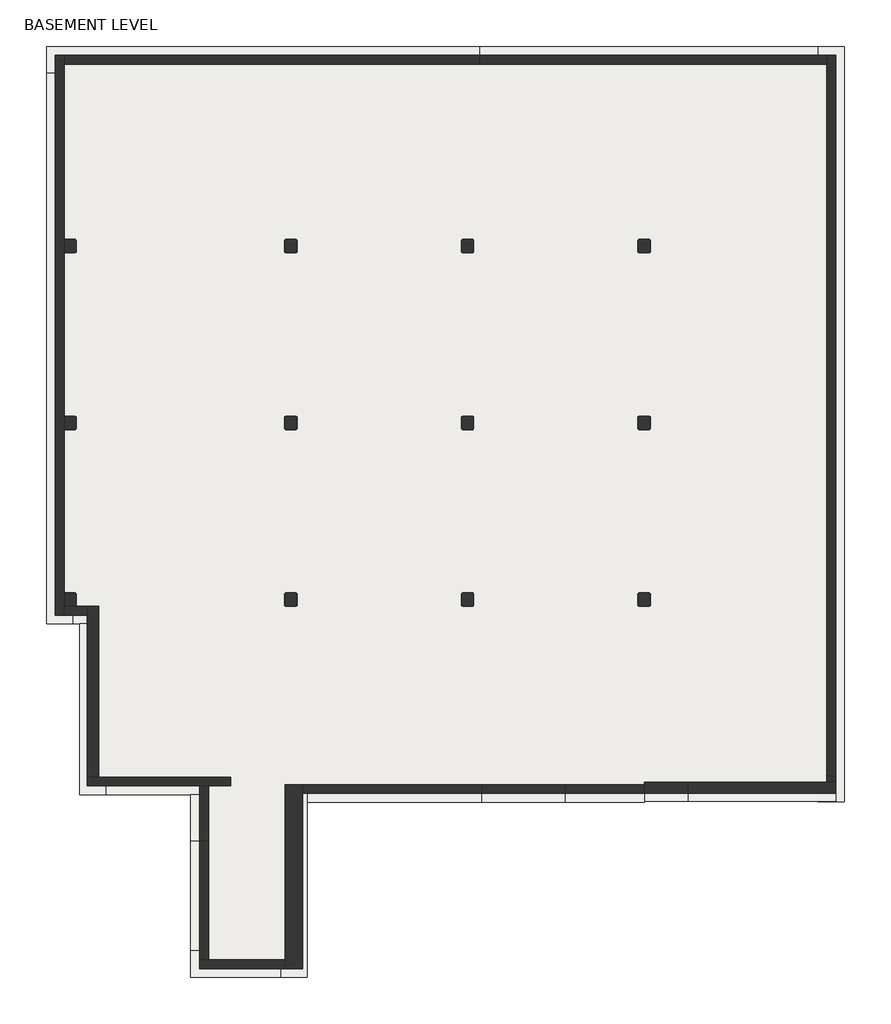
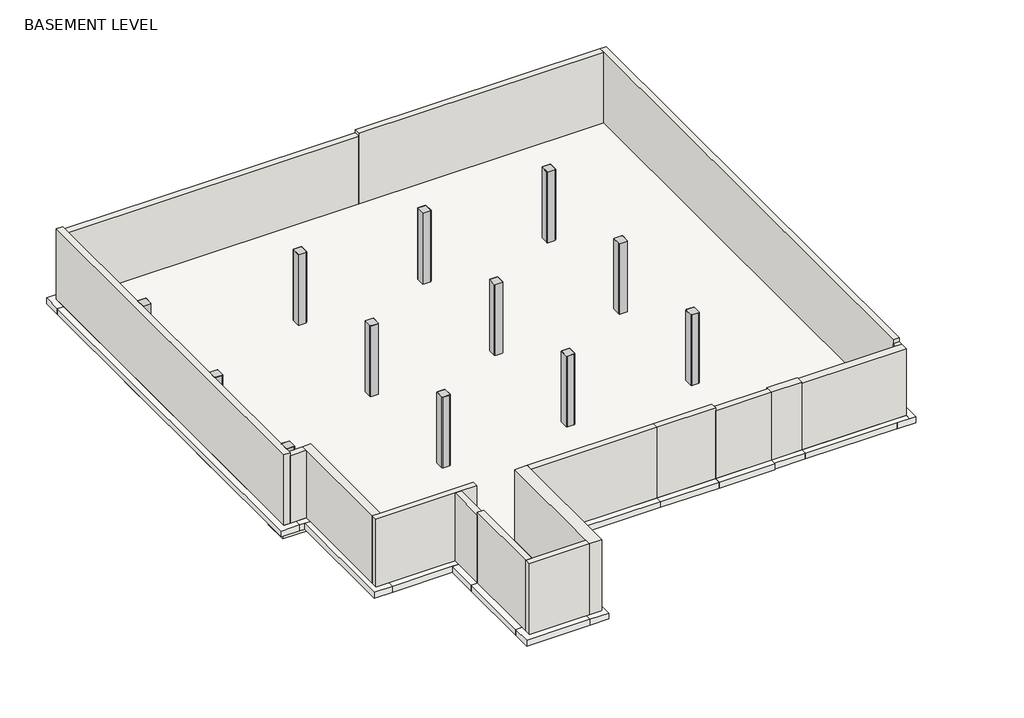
# One storey: 17 walls, 16 footings, 13 slabs, 12 columns.
"""IFC4 building model written with IfcOpenShell, lengths in millimetres."""

from ifc_helpers import new_model, si_unit, frame, origin, place, context, project, spatial, polyline, outline, extrude, faceted_brep, transform, mapped, element, save
from components import precast_rectangular_column_18x16_4c32c86e

model = new_model("IFC4")

# Units and contexts
model_context = context("Model", 3, world=origin())
ifc_project = project(units=[si_unit("LENGTHUNIT", "METRE", prefix="MILLI")], contexts=[model_context])

# Site, building, storey
site = spatial("IfcSite", under=ifc_project)
building = spatial("IfcBuilding", under=site)
storey = spatial("IfcBuildingStorey", under=building, Name="BASEMENT LEVEL", Elevation=-3663.95)

# Columns
placement = place(None, origin())
precast_rectangular_column_18x16_shape = precast_rectangular_column_18x16_4c32c86e(model_context)
element("IfcColumn", 1, ObjectType="Precast-Rectangular Column : 18X16", at=placement, inside=storey, context=model_context, shape_type="MappedRepresentation", body=[
    mapped(precast_rectangular_column_18x16_shape, transform((8608.9507265, 8108.7461318, 0.0), x_axis=(0.0, 1.0, 0.0), y_axis=(-1.0, 0.0, 0.0), z_axis=(0.0, 0.0, 1.0))),
])
element("IfcColumn", 2, ObjectType="Precast-Rectangular Column : 18X16", at=placement, inside=storey, context=model_context, shape_type="MappedRepresentation", body=[
    mapped(precast_rectangular_column_18x16_shape, transform((8608.9507265, 2012.7461318, 0.0), x_axis=(0.0, 1.0, 0.0), y_axis=(-1.0, 0.0, 0.0), z_axis=(0.0, 0.0, 1.0))),
])
element("IfcColumn", 3, ObjectType="Precast-Rectangular Column : 18X16", at=placement, inside=storey, context=model_context, shape_type="MappedRepresentation", body=[
    mapped(precast_rectangular_column_18x16_shape, transform((22324.9507265, 2012.7461318, 0.0), x_axis=(0.0, 1.0, 0.0), y_axis=(-1.0, 0.0, 0.0), z_axis=(0.0, 0.0, 1.0))),
])
element("IfcColumn", 4, ObjectType="Precast-Rectangular Column : 18X16", at=placement, inside=storey, context=model_context, shape_type="MappedRepresentation", body=[
    mapped(precast_rectangular_column_18x16_shape, transform((28420.9507265, 2012.7461318, 0.0), x_axis=(0.0, 1.0, 0.0), y_axis=(-1.0, 0.0, 0.0), z_axis=(0.0, 0.0, 1.0))),
])
element("IfcColumn", 5, ObjectType="Precast-Rectangular Column : 18X16", at=placement, inside=storey, context=model_context, shape_type="MappedRepresentation", body=[
    mapped(precast_rectangular_column_18x16_shape, transform((28420.9507265, -4083.2538682, 0.0), x_axis=(0.0, 1.0, 0.0), y_axis=(-1.0, 0.0, 0.0), z_axis=(0.0, 0.0, 1.0))),
])
element("IfcColumn", 6, ObjectType="Precast-Rectangular Column : 18X16", at=placement, inside=storey, context=model_context, shape_type="MappedRepresentation", body=[
    mapped(precast_rectangular_column_18x16_shape, transform((22324.9507265, -4083.2538682, 0.0), x_axis=(0.0, 1.0, 0.0), y_axis=(-1.0, 0.0, 0.0), z_axis=(0.0, 0.0, 1.0))),
])
element("IfcColumn", 7, ObjectType="Precast-Rectangular Column : 18X16", at=placement, inside=storey, context=model_context, shape_type="MappedRepresentation", body=[
    mapped(precast_rectangular_column_18x16_shape, transform((16228.9507265, -4083.2538682, 0.0), x_axis=(0.0, 1.0, 0.0), y_axis=(-1.0, 0.0, 0.0), z_axis=(0.0, 0.0, 1.0))),
])
element("IfcColumn", 8, ObjectType="Precast-Rectangular Column : 18X16", at=placement, inside=storey, context=model_context, shape_type="MappedRepresentation", body=[
    mapped(precast_rectangular_column_18x16_shape, transform((8608.9507265, -4084.8413682, 0.0), x_axis=(0.0, 1.0, 0.0), y_axis=(-1.0, 0.0, 0.0), z_axis=(0.0, 0.0, 1.0))),
])
element("IfcColumn", 9, ObjectType="Precast-Rectangular Column : 18X16", at=placement, inside=storey, context=model_context, shape_type="MappedRepresentation", body=[
    mapped(precast_rectangular_column_18x16_shape, transform((28420.9507265, 8108.7461318, 0.0), x_axis=(0.0, 1.0000000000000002, 0.0), y_axis=(-1.0000000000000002, 0.0, 0.0), z_axis=(0.0, 0.0, 1.0))),
])
element("IfcColumn", 10, ObjectType="Precast-Rectangular Column : 18X16", at=placement, inside=storey, context=model_context, shape_type="MappedRepresentation", body=[
    mapped(precast_rectangular_column_18x16_shape, transform((22324.9507265, 8108.7461318, 0.0), x_axis=(0.0, 1.0000000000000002, 0.0), y_axis=(-1.0000000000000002, 0.0, 0.0), z_axis=(0.0, 0.0, 1.0))),
])
element("IfcColumn", 11, ObjectType="Precast-Rectangular Column : 18X16", at=placement, inside=storey, context=model_context, shape_type="MappedRepresentation", body=[
    mapped(precast_rectangular_column_18x16_shape, transform((16228.9507265, 8108.7461318, 0.0), x_axis=(0.0, 1.0000000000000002, 0.0), y_axis=(-1.0000000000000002, 0.0, 0.0), z_axis=(0.0, 0.0, 1.0))),
])
element("IfcColumn", 12, ObjectType="Precast-Rectangular Column : 18X16", at=placement, inside=storey, context=model_context, shape_type="MappedRepresentation", body=[
    mapped(precast_rectangular_column_18x16_shape, transform((16228.9507265, 2012.7461318, 0.0), x_axis=(0.0, 1.0000000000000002, 0.0), y_axis=(-1.0000000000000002, 0.0, 0.0), z_axis=(0.0, 0.0, 1.0))),
])

# Footings
element("IfcFooting", 13, ObjectType="Bearing Footing - 36\" x 12\"", at=placement, inside=storey, context=model_context, shape_type="Brep", body=[
    faceted_brep([(15873.1470917, -17115.0413682, -3663.95), (16787.5470917, -17115.0413682, -3663.95), (16787.5470917, -11073.0163682, -3663.95), (16787.5470917, -10768.2163682, -3663.95), (16635.1470917, -10768.2163682, -3663.95), (16635.1470917, -16810.2413682, -3663.95), (15873.1470917, -16810.2413682, -3663.95), (16787.5470917, -17115.0413682, -3968.75), (16787.5470917, -11073.0163682, -3968.75), (16787.5470917, -10158.6163682, -3968.75), (16787.5470917, -10158.6163682, -3816.35), (16787.5470917, -10768.2163682, -3816.35), (15873.1470917, -17115.0413682, -3968.75), (15873.1470917, -16200.6413682, -3968.75), (15873.1470917, -10158.6163682, -3968.75), (15873.1470917, -16810.2413682, -3816.35), (15873.1470917, -16200.6413682, -3816.35), (15873.1470917, -10158.6163682, -3816.35), (16635.1470917, -16810.2413682, -3816.35), (16635.1470917, -10768.2163682, -3816.35)], [[[0, 1, 2, 3, 4, 5, 6]], [[7, 8, 9, 10, 11, 3, 2, 1]], [[9, 8, 7, 12, 13, 14]], [[14, 13, 12, 0, 6, 15, 16, 17]], [[18, 19, 11, 10, 17, 16, 15]], [[19, 4, 3, 11]], [[19, 18, 5, 4]], [[5, 18, 15, 6]], [[1, 0, 12, 7]], [[9, 14, 17, 10]]]),
])
element("IfcFooting", 14, ObjectType="Bearing Footing - 36\" x 12\"", at=placement, inside=storey, context=model_context, shape_type="Brep", body=[
    faceted_brep([(13079.1470917, -16810.2413682, -3663.95), (13079.1470917, -16200.6413682, -3663.95), (12774.3470917, -16200.6413682, -3663.95), (12774.3470917, -17115.0413682, -3663.95), (15873.1470917, -17115.0413682, -3663.95), (15873.1470917, -16810.2413682, -3663.95), (12774.3470917, -17115.0413682, -3968.75), (15873.1470917, -17115.0413682, -3968.75), (12774.3470917, -16200.6413682, -3968.75), (13688.7470917, -16200.6413682, -3968.75), (15873.1470917, -16200.6413682, -3968.75), (13079.1470917, -16200.6413682, -3816.35), (13688.7470917, -16200.6413682, -3816.35), (15873.1470917, -16200.6413682, -3816.35), (13079.1470917, -16810.2413682, -3816.35), (15873.1470917, -16810.2413682, -3816.35)], [[[0, 1, 2, 3, 4, 5]], [[3, 6, 7, 4]], [[6, 8, 9, 10, 7]], [[1, 11, 12, 13, 10, 9, 8, 2]], [[11, 14, 15, 13, 12]], [[14, 0, 5, 15]], [[0, 14, 11, 1]], [[5, 4, 7, 10, 13, 15]], [[3, 2, 8, 6]]]),
])
element("IfcFooting", 15, ObjectType="Bearing Footing - 36\" x 12\"", at=placement, inside=storey, context=model_context, shape_type="SweptSolid", body=[
    extrude(outline(polyline([(-11073.0163682, -3663.95), (-10768.2163682, -3663.95), (-10768.2163682, -3816.35), (-10158.6163682, -3816.35), (-10158.6163682, -3968.75), (-11073.0163682, -3968.75), (-11073.0163682, -3663.95)])), frame((16787.5470917, 0.0, 0.0), z_axis=(1.0, 0.0, 0.0), x_axis=(0.0, 1.0, 0.0)), (0.0, 0.0, 1.0), 6021.5911348),
])
element("IfcFooting", 16, ObjectType="Bearing Footing - 36\" x 12\"", at=placement, inside=storey, context=model_context, shape_type="SweptSolid", body=[
    extrude(outline(polyline([(-11073.0163682, -3968.75), (-11073.0163682, -3663.95), (-10768.2163682, -3663.95), (-10768.2163682, -3816.35), (-10158.6163682, -3816.35), (-10158.6163682, -3968.75), (-11073.0163682, -3968.75)])), frame((22809.1382265, 0.0, 0.0), z_axis=(1.0, 0.0, 0.0), x_axis=(0.0, 1.0, 0.0)), (0.0, 0.0, 1.0), 2876.2836945),
])
element("IfcFooting", 17, ObjectType="Bearing Footing - 36\" x 12\"", at=placement, inside=storey, context=model_context, shape_type="Brep", body=[
    faceted_brep([(28420.9507265, -11073.0163682, -3663.95), (28420.9507265, -11073.0163682, -3968.75), (28420.9507265, -11031.7413682, -3968.75), (28420.9507265, -10158.6163682, -3968.75), (28420.9507265, -10158.6163682, -3816.35), (28420.9507265, -10768.2163682, -3816.35), (28420.9507265, -10768.2163682, -3663.95), (28420.9507265, -11031.7413682, -3663.95), (25685.421921, -11073.0163682, -3968.75), (25685.421921, -11073.0163682, -3663.95), (25685.421921, -10768.2163682, -3663.95), (25685.421921, -10768.2163682, -3816.35), (25685.421921, -10158.6163682, -3816.35), (25685.421921, -10158.6163682, -3968.75)], [[[0, 1, 2, 3, 4, 5, 6, 7]], [[8, 9, 10, 11, 12, 13]], [[9, 0, 7, 6, 10]], [[1, 0, 9, 8]], [[3, 2, 1, 8, 13]], [[3, 13, 12, 4]], [[11, 5, 4, 12]], [[5, 11, 10, 6]]]),
])
element("IfcFooting", 18, ObjectType="Bearing Footing - 36\" x 12\"", at=placement, inside=storey, context=model_context, shape_type="Brep", body=[
    faceted_brep([(29919.3470917, -11031.7413682, -3663.95), (29919.3470917, -11031.7413682, -3968.75), (29919.3470917, -10117.3413682, -3968.75), (29919.3470917, -10117.3413682, -3816.35), (29919.3470917, -10768.2163682, -3816.35), (29919.3470917, -10768.2163682, -3663.95), (28420.9507265, -11031.7413682, -3968.75), (28420.9507265, -11031.7413682, -3663.95), (28420.9507265, -10768.2163682, -3663.95), (28420.9507265, -10768.2163682, -3816.35), (28420.9507265, -10158.6163682, -3816.35), (28420.9507265, -10117.3413682, -3816.35), (28420.9507265, -10117.3413682, -3968.75), (28420.9507265, -10158.6163682, -3968.75)], [[[0, 1, 2, 3, 4, 5]], [[6, 7, 8, 9, 10, 11, 12, 13]], [[7, 0, 5, 8]], [[1, 0, 7, 6]], [[2, 1, 6, 13, 12]], [[2, 12, 11, 3]], [[9, 4, 3, 11, 10]], [[4, 9, 8, 5]]]),
])
element("IfcFooting", 19, ObjectType="Bearing Footing - 36\" x 12\"", at=placement, inside=storey, context=model_context, shape_type="Brep", body=[
    faceted_brep([(35024.7470917, -11031.7413682, -3663.95), (35024.7470917, -11031.7413682, -3968.75), (35024.7470917, -10117.3413682, -3968.75), (35024.7470917, -10117.3413682, -3816.35), (35024.7470917, -10768.2163682, -3816.35), (35024.7470917, -10768.2163682, -3663.95), (29919.3470917, -11031.7413682, -3968.75), (29919.3470917, -11031.7413682, -3663.95), (29919.3470917, -10768.2163682, -3663.95), (29919.3470917, -10768.2163682, -3816.35), (29919.3470917, -10117.3413682, -3816.35), (29919.3470917, -10117.3413682, -3968.75), (34415.1470917, -11031.7413682, -3663.95), (34415.1470917, -11031.7413682, -3968.75), (34415.1470917, -10117.3413682, -3968.75), (34415.1470917, -10117.3413682, -3816.35)], [[[0, 1, 2, 3, 4, 5]], [[6, 7, 8, 9, 10, 11]], [[7, 12, 0, 5, 8]], [[1, 0, 12, 7, 6, 13]], [[2, 1, 13, 6, 11, 14]], [[2, 14, 11, 10, 15, 3]], [[9, 4, 3, 15, 10]], [[4, 9, 8, 5]]]),
])
element("IfcFooting", 20, ObjectType="Bearing Footing - 36\" x 12\"", at=placement, inside=storey, context=model_context, shape_type="Brep", body=[
    faceted_brep([(35329.5470917, -11057.1413682, -3968.75), (35329.5470917, -11057.1413682, -3663.95), (34415.1470917, -11057.1413682, -3663.95), (34415.1470917, -11057.1413682, -3968.75), (35329.5470917, 14990.5586318, -3663.95), (34415.1470917, 14990.5586318, -3663.95), (34415.1470917, 14685.7586318, -3663.95), (35024.7470917, 14685.7586318, -3663.95), (35024.7470917, -10768.2163682, -3663.95), (35024.7470917, -11031.7413682, -3663.95), (34415.1470917, -11031.7413682, -3663.95), (35329.5470917, 14990.5586318, -3968.75), (34415.1470917, -11031.7413682, -3968.75), (35024.7470917, -11031.7413682, -3968.75), (35024.7470917, -10117.3413682, -3968.75), (34415.1470917, -10117.3413682, -3968.75), (34415.1470917, 14076.1586318, -3968.75), (34415.1470917, 14990.5586318, -3968.75), (34415.1470917, 14685.7586318, -3816.35), (34415.1470917, -10117.3413682, -3816.35), (34415.1470917, 14076.1586318, -3816.35), (35024.7470917, 14685.7586318, -3816.35), (35024.7470917, -10117.3413682, -3816.35)], [[[0, 1, 2, 3]], [[1, 4, 5, 6, 7, 8, 9, 10, 2]], [[1, 0, 11, 4]], [[0, 3, 12, 13, 14, 15, 16, 17, 11]], [[3, 2, 10, 12]], [[18, 6, 5, 17, 16, 15, 19, 20]], [[21, 18, 20, 19, 22]], [[7, 21, 22, 14, 13, 9, 8]], [[21, 7, 6, 18]], [[14, 22, 19, 15]], [[9, 13, 12, 10]], [[5, 4, 11, 17]]]),
])
element("IfcFooting", 21, ObjectType="Bearing Footing - 36\" x 12\"", at=placement, inside=storey, context=model_context, shape_type="SweptSolid", body=[
    extrude(outline(polyline([(14990.5586318, -3663.95), (14990.5586318, -3968.75), (14076.1586318, -3968.75), (14076.1586318, -3816.35), (14685.7586318, -3816.35), (14685.7586318, -3663.95), (14990.5586318, -3663.95)])), frame((22731.1470917, 0.0, 0.0), z_axis=(1.0, 0.0, 0.0), x_axis=(0.0, 1.0, 0.0)), (0.0, 0.0, 1.0), 11684.0),
])
element("IfcFooting", 22, ObjectType="Bearing Footing - 36\" x 12\"", at=placement, inside=storey, context=model_context, shape_type="Brep", body=[
    faceted_brep([(22731.1470917, 14990.5586318, -3968.75), (22731.1470917, 14990.5586318, -3663.95), (22731.1470917, 14685.7586318, -3663.95), (22731.1470917, 14685.7586318, -3816.35), (22731.1470917, 14076.1586318, -3816.35), (22731.1470917, 14076.1586318, -3968.75), (7795.9470917, 14990.5586318, -3663.95), (7795.9470917, 14076.1586318, -3663.95), (8100.7470917, 14076.1586318, -3663.95), (8100.7470917, 14685.7586318, -3663.95), (7795.9470917, 14990.5586318, -3968.75), (8710.3470917, 14076.1586318, -3968.75), (7795.9470917, 14076.1586318, -3968.75), (8710.3470917, 14076.1586318, -3816.35), (8100.7470917, 14076.1586318, -3816.35), (8100.7470917, 14685.7586318, -3816.35)], [[[0, 1, 2, 3, 4, 5]], [[1, 6, 7, 8, 9, 2]], [[1, 0, 10, 6]], [[0, 5, 11, 12, 10]], [[12, 11, 5, 4, 13, 14, 8, 7]], [[3, 15, 14, 13, 4]], [[9, 15, 3, 2]], [[7, 6, 10, 12]], [[15, 9, 8, 14]]]),
])
element("IfcFooting", 23, ObjectType="Bearing Footing - 36\" x 12\"", at=placement, inside=storey, context=model_context, shape_type="Brep", body=[
    faceted_brep([(8710.3470917, -4923.0413682, -3663.95), (8710.3470917, -4618.2413682, -3663.95), (8100.7470917, -4618.2413682, -3663.95), (8100.7470917, 14076.1586318, -3663.95), (7795.9470917, 14076.1586318, -3663.95), (7795.9470917, -4923.0413682, -3663.95), (7795.9470917, -4923.0413682, -3968.75), (7795.9470917, 14076.1586318, -3968.75), (8710.3470917, 8718.3461318, -3968.75), (7999.3507265, 8718.3461318, -3968.75), (7999.3507265, 7499.1461318, -3968.75), (8710.3470917, 7499.1461318, -3968.75), (8710.3470917, 2622.3461318, -3968.75), (7999.3507265, 2622.3461318, -3968.75), (7999.3507265, 1403.1461318, -3968.75), (8710.3470917, 1403.1461318, -3968.75), (8710.3470917, -3473.6538682, -3968.75), (7999.3507265, -3473.6538682, -3968.75), (7999.3507265, -4692.8538682, -3968.75), (8710.3470917, -4692.8538682, -3968.75), (8710.3470917, -4923.0413682, -3968.75), (8710.3470917, 14076.1586318, -3968.75), (8710.3470917, 8718.3461318, -3816.35), (8710.3470917, 14076.1586318, -3816.35), (8710.3470917, 7499.1461318, -3816.35), (8710.3470917, 2622.3461318, -3816.35), (8710.3470917, 1403.1461318, -3816.35), (8710.3470917, -3473.6538682, -3816.35), (8710.3470917, -4692.8538682, -3816.35), (8710.3470917, -4618.2413682, -3816.35), (8100.7470917, 8718.3461318, -3816.35), (8100.7470917, 14076.1586318, -3816.35), (8100.7470917, 7499.1461318, -3816.35), (8100.7470917, 2622.3461318, -3816.35), (8100.7470917, 1403.1461318, -3816.35), (8100.7470917, -3473.6538682, -3816.35), (8100.7470917, -4618.2413682, -3816.35), (7999.3507265, 7499.1461318, -3816.35), (7999.3507265, 8718.3461318, -3816.35), (7999.3507265, 1403.1461318, -3816.35), (7999.3507265, 2622.3461318, -3816.35), (7999.3507265, -4692.8538682, -3816.35), (7999.3507265, -3473.6538682, -3816.35)], [[[0, 1, 2, 3, 4, 5]], [[6, 5, 4, 7]], [[8, 9, 10, 11, 12, 13, 14, 15, 16, 17, 18, 19, 20, 6, 7, 21]], [[22, 8, 21, 23]], [[11, 24, 25, 12]], [[15, 26, 27, 16]], [[1, 0, 20, 19, 28, 29]], [[30, 22, 23, 31]], [[24, 32, 33, 25]], [[26, 34, 35, 27]], [[36, 2, 1, 29]], [[2, 36, 35, 34, 33, 32, 30, 31, 3]], [[37, 38, 30, 32]], [[30, 38, 9, 8, 22]], [[38, 37, 10, 9]], [[37, 32, 24, 11, 10]], [[39, 40, 33, 34]], [[33, 40, 13, 12, 25]], [[40, 39, 14, 13]], [[39, 34, 26, 15, 14]], [[41, 42, 35, 36, 29, 28]], [[35, 42, 17, 16, 27]], [[42, 41, 18, 17]], [[4, 3, 31, 23, 21, 7]], [[0, 5, 6, 20]], [[41, 28, 19, 18]]]),
])
element("IfcFooting", 24, ObjectType="Bearing Footing - 36\" x 12\"", at=placement, inside=storey, context=model_context, shape_type="Brep", body=[
    faceted_brep([(9205.0138194, -4923.0413682, -3663.95), (9205.0138194, -4618.2413682, -3663.95), (8710.3470917, -4618.2413682, -3663.95), (8710.3470917, -4923.0413682, -3663.95), (8941.4888194, -4923.0413682, -3663.95), (9205.0138194, -4923.0413682, -3816.35), (8710.3470917, -4923.0413682, -3968.75), (8941.4888194, -4923.0413682, -3968.75), (9855.8888194, -4923.0413682, -3968.75), (9855.8888194, -4923.0413682, -3816.35), (9855.8888194, -4008.6413682, -3968.75), (8710.3470917, -4692.8538682, -3968.75), (9218.5507265, -4692.8538682, -3968.75), (9218.5507265, -4008.6413682, -3968.75), (9855.8888194, -4008.6413682, -3816.35), (9218.5507265, -4008.6413682, -3816.35), (9218.5507265, -4692.8538682, -3816.35), (9205.0138194, -4692.8538682, -3816.35), (9205.0138194, -4618.2413682, -3816.35), (8710.3470917, -4618.2413682, -3816.35), (8710.3470917, -4692.8538682, -3816.35)], [[[0, 1, 2, 3, 4]], [[5, 0, 4, 3, 6, 7, 8, 9]], [[10, 8, 7, 6, 11, 12, 13]], [[14, 10, 13, 15]], [[5, 9, 14, 15, 16, 17]], [[18, 1, 0, 5, 17]], [[1, 18, 19, 2]], [[18, 17, 20, 19]], [[16, 12, 11, 20, 17]], [[3, 2, 19, 20, 11, 6]], [[8, 10, 14, 9]], [[12, 16, 15, 13]]]),
])
element("IfcFooting", 25, ObjectType="Bearing Footing - 36\" x 12\"", at=placement, inside=storey, context=model_context, shape_type="Brep", body=[
    faceted_brep([(8941.4888194, -10815.8413682, -3663.95), (9855.8888194, -10815.8413682, -3663.95), (9855.8888194, -10511.0413682, -3663.95), (9205.0138194, -10511.0413682, -3663.95), (9205.0138194, -4923.0413682, -3663.95), (8941.4888194, -4923.0413682, -3663.95), (8941.4888194, -10815.8413682, -3968.75), (8941.4888194, -4923.0413682, -3968.75), (9855.8888194, -10815.8413682, -3968.75), (9855.8888194, -4923.0413682, -3968.75), (9855.8888194, -9901.4413682, -3968.75), (9855.8888194, -4923.0413682, -3816.35), (9855.8888194, -9901.4413682, -3816.35), (9855.8888194, -10511.0413682, -3816.35), (9205.0138194, -10511.0413682, -3816.35), (9205.0138194, -4923.0413682, -3816.35)], [[[0, 1, 2, 3, 4, 5]], [[6, 0, 5, 7]], [[8, 6, 7, 9, 10]], [[1, 8, 10, 9, 11, 12, 13, 2]], [[14, 13, 12, 11, 15]], [[3, 14, 15, 4]], [[5, 4, 15, 11, 9, 7]], [[1, 0, 6, 8]], [[14, 3, 2, 13]]]),
])
element("IfcFooting", 26, ObjectType="Bearing Footing - 36\" x 12\"", at=placement, inside=storey, context=model_context, shape_type="Brep", body=[
    faceted_brep([(14152.2970917, -10815.8413682, -3968.75), (14152.2970917, -9901.4413682, -3968.75), (14152.2970917, -9901.4413682, -3816.35), (14152.2970917, -10815.8413682, -3816.35), (13079.1470917, -10815.8413682, -3663.95), (13079.1470917, -10511.0413682, -3663.95), (9855.8888194, -10511.0413682, -3663.95), (9855.8888194, -10815.8413682, -3663.95), (12774.3470917, -10815.8413682, -3663.95), (13688.7470917, -10815.8413682, -3816.35), (13079.1470917, -10815.8413682, -3816.35), (9855.8888194, -10815.8413682, -3968.75), (12774.3470917, -10815.8413682, -3968.75), (13688.7470917, -10815.8413682, -3968.75), (9855.8888194, -9901.4413682, -3968.75), (9855.8888194, -9901.4413682, -3816.35), (13079.1470917, -10511.0413682, -3816.35), (9855.8888194, -10511.0413682, -3816.35)], [[[0, 1, 2, 3]], [[4, 5, 6, 7, 8]], [[0, 3, 9, 10, 4, 8, 7, 11, 12, 13]], [[1, 0, 13, 12, 11, 14]], [[2, 1, 14, 15]], [[16, 10, 9, 3, 2, 15, 17]], [[16, 5, 4, 10]], [[5, 16, 17, 6]], [[7, 6, 17, 15, 14, 11]]]),
])
element("IfcFooting", 27, ObjectType="Bearing Footing - 36\" x 12\"", at=placement, inside=storey, context=model_context, shape_type="SweptSolid", body=[
    extrude(outline(polyline([(-3663.95, 12774.3470917), (-3968.75, 12774.3470917), (-3968.75, 13688.7470917), (-3816.35, 13688.7470917), (-3816.35, 13079.1470917), (-3663.95, 13079.1470917), (-3663.95, 12774.3470917)])), frame((0.0, -12412.8663682, 0.0), z_axis=(0.0, 1.0, 0.0), x_axis=(0.0, 0.0, 1.0)), (0.0, 0.0, 1.0), 1597.025),
])
element("IfcFooting", 28, ObjectType="Bearing Footing - 36\" x 12\"", at=placement, inside=storey, context=model_context, shape_type="SweptSolid", body=[
    extrude(outline(polyline([(-3663.95, 13079.1470917), (-3663.95, 12774.3470917), (-3968.75, 12774.3470917), (-3968.75, 13688.7470917), (-3816.35, 13688.7470917), (-3816.35, 13079.1470917), (-3663.95, 13079.1470917)])), frame((0.0, -16200.6413682, 0.0), z_axis=(0.0, 1.0, 0.0), x_axis=(0.0, 0.0, 1.0)), (0.0, 0.0, 1.0), 3787.775),
])

# Slabs
element("IfcSlab", 29, ObjectType="6\" Concrete Slab", at=placement, inside=storey, context=model_context, shape_type="Brep", body=[
    faceted_brep([(35024.7470917, -10768.2163682, -3816.35), (29919.3470917, -10768.2163682, -3816.35), (28420.9507265, -10768.2163682, -3816.35), (25685.421921, -10768.2163682, -3816.35), (22809.1382265, -10768.2163682, -3816.35), (16787.5470917, -10768.2163682, -3816.35), (16635.1470917, -10768.2163682, -3816.35), (16635.1470917, -16810.2413682, -3816.35), (15873.1470917, -16810.2413682, -3816.35), (13079.1470917, -16810.2413682, -3816.35), (13079.1470917, -16200.6413682, -3816.35), (13079.1470917, -12412.8663682, -3816.35), (13079.1470917, -10815.8413682, -3816.35), (13079.1470917, -10511.0413682, -3816.35), (9855.8888194, -10511.0413682, -3816.35), (9205.0138194, -10511.0413682, -3816.35), (9205.0138194, -4923.0413682, -3816.35), (9205.0138194, -4692.8538682, -3816.35), (9205.0138194, -4618.2413682, -3816.35), (8710.3470917, -4618.2413682, -3816.35), (8100.7470917, -4618.2413682, -3816.35), (8100.7470917, -3473.6538682, -3816.35), (8100.7470917, 1403.1461318, -3816.35), (8100.7470917, 2622.3461318, -3816.35), (8100.7470917, 7499.1461318, -3816.35), (8100.7470917, 8718.3461318, -3816.35), (8100.7470917, 14076.1586318, -3816.35), (8100.7470917, 14685.7586318, -3816.35), (22731.1470917, 14685.7586318, -3816.35), (34415.1470917, 14685.7586318, -3816.35), (35024.7470917, 14685.7586318, -3816.35), (35024.7470917, -10117.3413682, -3816.35), (35024.7470917, -10768.2163682, -3663.95), (35024.7470917, 14685.7586318, -3663.95), (34415.1470917, 14685.7586318, -3663.95), (22731.1470917, 14685.7586318, -3663.95), (8100.7470917, 14685.7586318, -3663.95), (8100.7470917, 14076.1586318, -3663.95), (8100.7470917, -4618.2413682, -3663.95), (8710.3470917, -4618.2413682, -3663.95), (9205.0138194, -4618.2413682, -3663.95), (9205.0138194, -4923.0413682, -3663.95), (9205.0138194, -10511.0413682, -3663.95), (9855.8888194, -10511.0413682, -3663.95), (13079.1470917, -10511.0413682, -3663.95), (13079.1470917, -10815.8413682, -3663.95), (13079.1470917, -12412.8663682, -3663.95), (13079.1470917, -16200.6413682, -3663.95), (13079.1470917, -16810.2413682, -3663.95), (15873.1470917, -16810.2413682, -3663.95), (16635.1470917, -16810.2413682, -3663.95), (16635.1470917, -10768.2163682, -3663.95), (16787.5470917, -10768.2163682, -3663.95), (22809.1382265, -10768.2163682, -3663.95), (25685.421921, -10768.2163682, -3663.95), (28420.9507265, -10768.2163682, -3663.95), (29919.3470917, -10768.2163682, -3663.95)], [[[0, 1, 2, 3, 4, 5, 6, 7, 8, 9, 10, 11, 12, 13, 14, 15, 16, 17, 18, 19, 20, 21, 22, 23, 24, 25, 26, 27, 28, 29, 30, 31]], [[32, 33, 34, 35, 36, 37, 38, 39, 40, 41, 42, 43, 44, 45, 46, 47, 48, 49, 50, 51, 52, 53, 54, 55, 56]], [[0, 31, 30, 33, 32]], [[6, 5, 4, 3, 2, 1, 0, 32, 56, 55, 54, 53, 52, 51]], [[7, 6, 51, 50]], [[9, 8, 7, 50, 49, 48]], [[13, 12, 11, 10, 9, 48, 47, 46, 45, 44]], [[15, 14, 13, 44, 43, 42]], [[18, 17, 16, 15, 42, 41, 40]], [[20, 19, 18, 40, 39, 38]], [[27, 26, 25, 24, 23, 22, 21, 20, 38, 37, 36]], [[30, 29, 28, 27, 36, 35, 34, 33]]]),
])
element("IfcSlab", 30, ObjectType="Footing-Rectangular : 48\" x 48\" x 18\"", at=placement, inside=storey, context=model_context, shape_type="Brep", body=[
    faceted_brep([(9218.5507265, 8718.3461318, -3816.35), (8710.3470917, 8718.3461318, -3816.35), (8100.7470917, 8718.3461318, -3816.35), (7999.3507265, 8718.3461318, -3816.35), (7999.3507265, 7499.1461318, -3816.35), (8100.7470917, 7499.1461318, -3816.35), (8710.3470917, 7499.1461318, -3816.35), (9218.5507265, 7499.1461318, -3816.35), (9218.5507265, 8718.3461318, -4273.55), (9218.5507265, 7499.1461318, -4273.55), (7999.3507265, 7499.1461318, -4273.55), (7999.3507265, 8718.3461318, -4273.55), (7999.3507265, 8718.3461318, -3968.75), (7999.3507265, 7499.1461318, -3968.75)], [[[0, 1, 2, 3, 4, 5, 6, 7]], [[8, 9, 10, 11]], [[3, 2, 1, 0, 8, 11, 12]], [[4, 3, 12, 11, 10, 13]], [[7, 6, 5, 4, 13, 10, 9]], [[0, 7, 9, 8]]]),
])
element("IfcSlab", 31, ObjectType="Footing-Rectangular : 48\" x 48\" x 18\"", at=placement, inside=storey, context=model_context, shape_type="SweptSolid", body=[
    extrude(outline(polyline([(16838.5507265, 8718.3461318), (16838.5507265, 7499.1461318), (15619.3507265, 7499.1461318), (15619.3507265, 8718.3461318), (16838.5507265, 8718.3461318)])), frame((0.0, 0.0, -4273.55), z_axis=(0.0, 0.0, 1.0), x_axis=(1.0, 0.0, 0.0)), (0.0, 0.0, 1.0), 457.2),
])
element("IfcSlab", 32, ObjectType="Footing-Rectangular : 48\" x 48\" x 18\"", at=placement, inside=storey, context=model_context, shape_type="SweptSolid", body=[
    extrude(outline(polyline([(22934.5507265, 8718.3461318), (22934.5507265, 7499.1461318), (21715.3507265, 7499.1461318), (21715.3507265, 8718.3461318), (22934.5507265, 8718.3461318)])), frame((0.0, 0.0, -4273.55), z_axis=(0.0, 0.0, 1.0), x_axis=(1.0, 0.0, 0.0)), (0.0, 0.0, 1.0), 457.2),
])
element("IfcSlab", 33, ObjectType="Footing-Rectangular : 48\" x 48\" x 18\"", at=placement, inside=storey, context=model_context, shape_type="SweptSolid", body=[
    extrude(outline(polyline([(29030.5507265, 8718.3461318), (29030.5507265, 7499.1461318), (27811.3507265, 7499.1461318), (27811.3507265, 8718.3461318), (29030.5507265, 8718.3461318)])), frame((0.0, 0.0, -4273.55), z_axis=(0.0, 0.0, 1.0), x_axis=(1.0, 0.0, 0.0)), (0.0, 0.0, 1.0), 457.2),
])
element("IfcSlab", 34, ObjectType="Footing-Rectangular : 48\" x 48\" x 18\"", at=placement, inside=storey, context=model_context, shape_type="SweptSolid", body=[
    extrude(outline(polyline([(29030.5507265, 2622.3461318), (29030.5507265, 1403.1461318), (27811.3507265, 1403.1461318), (27811.3507265, 2622.3461318), (29030.5507265, 2622.3461318)])), frame((0.0, 0.0, -4273.55), z_axis=(0.0, 0.0, 1.0), x_axis=(1.0, 0.0, 0.0)), (0.0, 0.0, 1.0), 457.2),
])
element("IfcSlab", 35, ObjectType="Footing-Rectangular : 48\" x 48\" x 18\"", at=placement, inside=storey, context=model_context, shape_type="SweptSolid", body=[
    extrude(outline(polyline([(22934.5507265, 2622.3461318), (22934.5507265, 1403.1461318), (21715.3507265, 1403.1461318), (21715.3507265, 2622.3461318), (22934.5507265, 2622.3461318)])), frame((0.0, 0.0, -4273.55), z_axis=(0.0, 0.0, 1.0), x_axis=(1.0, 0.0, 0.0)), (0.0, 0.0, 1.0), 457.2),
])
element("IfcSlab", 36, ObjectType="Footing-Rectangular : 48\" x 48\" x 18\"", at=placement, inside=storey, context=model_context, shape_type="SweptSolid", body=[
    extrude(outline(polyline([(16838.5507265, 2622.3461318), (16838.5507265, 1403.1461318), (15619.3507265, 1403.1461318), (15619.3507265, 2622.3461318), (16838.5507265, 2622.3461318)])), frame((0.0, 0.0, -4273.55), z_axis=(0.0, 0.0, 1.0), x_axis=(1.0, 0.0, 0.0)), (0.0, 0.0, 1.0), 457.2),
])
element("IfcSlab", 37, ObjectType="Footing-Rectangular : 48\" x 48\" x 18\"", at=placement, inside=storey, context=model_context, shape_type="Brep", body=[
    faceted_brep([(9218.5507265, 2622.3461318, -3816.35), (8710.3470917, 2622.3461318, -3816.35), (8100.7470917, 2622.3461318, -3816.35), (7999.3507265, 2622.3461318, -3816.35), (7999.3507265, 1403.1461318, -3816.35), (8100.7470917, 1403.1461318, -3816.35), (8710.3470917, 1403.1461318, -3816.35), (9218.5507265, 1403.1461318, -3816.35), (9218.5507265, 2622.3461318, -4273.55), (9218.5507265, 1403.1461318, -4273.55), (7999.3507265, 1403.1461318, -4273.55), (7999.3507265, 2622.3461318, -4273.55), (7999.3507265, 2622.3461318, -3968.75), (7999.3507265, 1403.1461318, -3968.75)], [[[0, 1, 2, 3, 4, 5, 6, 7]], [[8, 9, 10, 11]], [[3, 2, 1, 0, 8, 11, 12]], [[4, 3, 12, 11, 10, 13]], [[7, 6, 5, 4, 13, 10, 9]], [[0, 7, 9, 8]]]),
])
element("IfcSlab", 38, ObjectType="Footing-Rectangular : 48\" x 48\" x 18\"", at=placement, inside=storey, context=model_context, shape_type="Brep", body=[
    faceted_brep([(9218.5507265, -3473.6538682, -3816.35), (8710.3470917, -3473.6538682, -3816.35), (8100.7470917, -3473.6538682, -3816.35), (7999.3507265, -3473.6538682, -3816.35), (7999.3507265, -4692.8538682, -3816.35), (8710.3470917, -4692.8538682, -3816.35), (9205.0138194, -4692.8538682, -3816.35), (9218.5507265, -4692.8538682, -3816.35), (9218.5507265, -4008.6413682, -3816.35), (9218.5507265, -3473.6538682, -4273.55), (9218.5507265, -4692.8538682, -4273.55), (7999.3507265, -4692.8538682, -4273.55), (7999.3507265, -3473.6538682, -4273.55), (7999.3507265, -3473.6538682, -3968.75), (7999.3507265, -4692.8538682, -3968.75), (9218.5507265, -4692.8538682, -3968.75)], [[[0, 1, 2, 3, 4, 5, 6, 7, 8]], [[9, 10, 11, 12]], [[3, 2, 1, 0, 9, 12, 13]], [[4, 3, 13, 12, 11, 14]], [[7, 6, 5, 4, 14, 11, 10, 15]], [[0, 8, 7, 15, 10, 9]]]),
])
element("IfcSlab", 39, ObjectType="Footing-Rectangular : 48\" x 48\" x 18\"", at=placement, inside=storey, context=model_context, shape_type="SweptSolid", body=[
    extrude(outline(polyline([(16838.3470917, -3473.6538682), (16838.3470917, -4692.8538682), (15619.1470917, -4692.8538682), (15619.1470917, -3473.6538682), (16838.3470917, -3473.6538682)])), frame((0.0, 0.0, -4273.55), z_axis=(0.0, 0.0, 1.0), x_axis=(1.0, 0.0, 0.0)), (0.0, 0.0, 1.0), 457.2),
])
element("IfcSlab", 40, ObjectType="Footing-Rectangular : 48\" x 48\" x 18\"", at=placement, inside=storey, context=model_context, shape_type="SweptSolid", body=[
    extrude(outline(polyline([(22934.5507265, -3473.6538682), (22934.5507265, -4692.8538682), (21715.3507265, -4692.8538682), (21715.3507265, -3473.6538682), (22934.5507265, -3473.6538682)])), frame((0.0, 0.0, -4273.55), z_axis=(0.0, 0.0, 1.0), x_axis=(1.0, 0.0, 0.0)), (0.0, 0.0, 1.0), 457.2),
])
element("IfcSlab", 41, ObjectType="Footing-Rectangular : 48\" x 48\" x 18\"", at=placement, inside=storey, context=model_context, shape_type="SweptSolid", body=[
    extrude(outline(polyline([(29030.5507265, -3473.6538682), (29030.5507265, -4692.8538682), (27811.3507265, -4692.8538682), (27811.3507265, -3473.6538682), (29030.5507265, -3473.6538682)])), frame((0.0, 0.0, -4273.55), z_axis=(0.0, 0.0, 1.0), x_axis=(1.0, 0.0, 0.0)), (0.0, 0.0, 1.0), 457.2),
])

# Walls
element("IfcWall", 42, ObjectType="Conc_12\" - BIM-M", at=placement, inside=storey, context=model_context, shape_type="Brep", body=[
    faceted_brep([(34719.9470917, 14685.7586318, -3663.95), (34719.9470917, 14380.9586318, -3663.95), (34719.9470917, -10179.2538682, -3663.95), (34719.9470917, -10179.2538682, -203.2), (34719.9470917, -10179.2538682, 0.0), (34719.9470917, 14380.9586318, 0.0), (34719.9470917, 14685.7586318, 0.0), (35024.7470917, 14685.7586318, -3663.95), (35024.7470917, 14685.7586318, 0.0), (35024.7470917, -10179.2538682, 0.0), (35024.7470917, -10179.2538682, -203.2), (35024.7470917, -10179.2538682, -3663.95)], [[[0, 1, 2, 3, 4, 5, 6]], [[7, 8, 9, 10, 11]], [[2, 1, 0, 7, 11]], [[4, 3, 2, 11, 10, 9]], [[6, 5, 4, 9, 8]], [[0, 6, 8, 7]]]),
])
element("IfcWall", 43, ObjectType="Conc_12\" - BIM-M", at=placement, inside=storey, context=model_context, shape_type="SweptSolid", body=[
    extrude(outline(polyline([(16635.1470917, -10463.4163682), (22809.1382265, -10463.4163682), (22809.1382265, -10768.2163682), (16635.1470917, -10768.2163682), (16635.1470917, -10463.4163682)])), frame((0.0, 0.0, -3663.95), z_axis=(0.0, 0.0, 1.0), x_axis=(1.0, 0.0, 0.0)), (0.0, 0.0, 1.0), 3663.95),
])
element("IfcWall", 44, ObjectType="Conc_12\" - BIM-M", at=placement, inside=storey, context=model_context, shape_type="SweptSolid", body=[
    extrude(outline(polyline([(22731.1470917, 14380.9586318), (8405.5470917, 14380.9586318), (8405.5470917, 14685.7586318), (22731.1470917, 14685.7586318), (22731.1470917, 14380.9586318)])), frame((0.0, 0.0, -3663.95), z_axis=(0.0, 0.0, 1.0), x_axis=(1.0, 0.0, 0.0)), (0.0, 0.0, 1.0), 3511.55),
])
element("IfcWall", 45, ObjectType="Conc_12\" - BIM-M", at=placement, inside=storey, context=model_context, shape_type="Brep", body=[
    faceted_brep([(8405.5470917, -4618.2413682, -3663.95), (8405.5470917, -4313.4413682, -3663.95), (8405.5470917, 14380.9586318, -3663.95), (8405.5470917, 14685.7586318, -3663.95), (8405.5470917, 14685.7586318, -152.4), (8405.5470917, 14685.7586318, 0.0), (8405.5470917, -4618.2413682, 0.0), (8405.5470917, -4618.2413682, -152.4), (8100.7470917, -4618.2413682, -3663.95), (8100.7470917, -4618.2413682, 0.0), (8100.7470917, 14685.7586318, 0.0), (8100.7470917, 14685.7586318, -3663.95)], [[[0, 1, 2, 3, 4, 5, 6, 7]], [[8, 9, 10, 11]], [[3, 2, 1, 0, 8, 11]], [[6, 5, 10, 9]], [[0, 7, 6, 9, 8]], [[5, 4, 3, 11, 10]]]),
])
element("IfcWall", 46, ObjectType="Conc_12\" - BIM-M", at=placement, inside=storey, context=model_context, shape_type="Brep", body=[
    faceted_brep([(13383.9470917, -16505.4413682, -3663.95), (13383.9470917, -12412.8663682, -3663.95), (13383.9470917, -12412.8663682, -152.4), (13383.9470917, -12412.8663682, 0.0), (13383.9470917, -16505.4413682, 0.0), (13079.1470917, -16505.4413682, -3663.95), (13079.1470917, -16505.4413682, 0.0), (13079.1470917, -12412.8663682, 0.0), (13079.1470917, -12412.8663682, -152.4), (13079.1470917, -12412.8663682, -3663.95)], [[[0, 1, 2, 3, 4]], [[5, 6, 7, 8, 9]], [[1, 0, 5, 9]], [[3, 2, 1, 9, 8, 7]], [[4, 3, 7, 6]], [[0, 4, 6, 5]]]),
])
element("IfcWall", 47, ObjectType="Conc_12\" - BIM-M", at=placement, inside=storey, context=model_context, shape_type="Brep", body=[
    faceted_brep([(16025.5470917, -16505.4413682, -3663.95), (13383.9470917, -16505.4413682, -3663.95), (13079.1470917, -16505.4413682, -3663.95), (13079.1470917, -16505.4413682, 0.0), (13383.9470917, -16505.4413682, 0.0), (16025.5470917, -16505.4413682, 0.0), (16025.5470917, -16810.2413682, -3663.95), (16025.5470917, -16810.2413682, 0.0), (13079.1470917, -16810.2413682, 0.0), (13079.1470917, -16810.2413682, -3663.95)], [[[0, 1, 2, 3, 4, 5]], [[6, 7, 8, 9]], [[2, 1, 0, 6, 9]], [[5, 4, 3, 8, 7]], [[0, 5, 7, 6]], [[3, 2, 9, 8]]]),
])
element("IfcWall", 48, ObjectType="Conc_12\" - BIM-M", at=placement, inside=storey, context=model_context, shape_type="Brep", body=[
    faceted_brep([(14152.2970917, -10206.2413682, -3663.95), (9592.3638194, -10206.2413682, -3663.95), (9205.0138194, -10206.2413682, -3663.95), (9205.0138194, -10206.2413682, -152.4), (9592.3638194, -10206.2413682, -152.4), (14152.2970917, -10206.2413682, -152.4), (14152.2970917, -10511.0413682, -3663.95), (14152.2970917, -10511.0413682, -152.4), (13383.9470917, -10511.0413682, -152.4), (13079.1470917, -10511.0413682, -152.4), (9205.0138194, -10511.0413682, -152.4), (9205.0138194, -10511.0413682, -3663.95), (13079.1470917, -10511.0413682, -3663.95), (13383.9470917, -10511.0413682, -3663.95)], [[[0, 1, 2, 3, 4, 5]], [[6, 7, 8, 9, 10, 11, 12, 13]], [[2, 1, 0, 6, 13, 12, 11]], [[5, 4, 3, 10, 9, 8, 7]], [[0, 5, 7, 6]], [[3, 2, 11, 10]]]),
])
element("IfcWall", 49, ObjectType="Conc_12\" - BIM-M", at=placement, inside=storey, context=model_context, shape_type="SweptSolid", body=[
    extrude(outline(polyline([(8405.5470917, -4313.4413682), (9205.0138194, -4313.4413682), (9205.0138194, -4618.2413682), (8405.5470917, -4618.2413682), (8405.5470917, -4313.4413682)])), frame((0.0, 0.0, -3663.95), z_axis=(0.0, 0.0, 1.0), x_axis=(1.0, 0.0, 0.0)), (0.0, 0.0, 1.0), 3511.55),
])
element("IfcWall", 50, ObjectType="Conc_12\" - BIM-M", at=placement, inside=storey, context=model_context, shape_type="SweptSolid", body=[
    extrude(outline(polyline([(13383.9470917, -10511.0413682), (13383.9470917, -12412.8663682), (13079.1470917, -12412.8663682), (13079.1470917, -10511.0413682), (13383.9470917, -10511.0413682)])), frame((0.0, 0.0, -3663.95), z_axis=(0.0, 0.0, 1.0), x_axis=(1.0, 0.0, 0.0)), (0.0, 0.0, 1.0), 3511.55),
])
element("IfcWall", 51, ObjectType="Conc_12\" - BIM-M", at=placement, inside=storey, context=model_context, shape_type="SweptSolid", body=[
    extrude(outline(polyline([(25685.421921, -10463.4163682), (28420.9507265, -10463.4163682), (28420.9507265, -10768.2163682), (25685.421921, -10768.2163682), (25685.421921, -10463.4163682)])), frame((0.0, 0.0, -3663.95), z_axis=(0.0, 0.0, 1.0), x_axis=(1.0, 0.0, 0.0)), (0.0, 0.0, 1.0), 3511.55),
])
element("IfcWall", 52, ObjectType="Conc_12\" - BIM-M", at=placement, inside=storey, context=model_context, shape_type="Brep", body=[
    faceted_brep([(25685.421921, -10463.4163682, -3663.95), (22809.1382265, -10463.4163682, -3663.95), (22809.1382265, -10463.4163682, 0.0), (25685.421921, -10463.4163682, 0.0), (25685.421921, -10463.4163682, -152.4), (25685.421921, -10768.2163682, -3663.95), (25685.421921, -10768.2163682, -152.4), (25685.421921, -10768.2163682, 0.0), (22809.1382265, -10768.2163682, 0.0), (22809.1382265, -10768.2163682, -3663.95)], [[[0, 1, 2, 3, 4]], [[5, 6, 7, 8, 9]], [[1, 0, 5, 9]], [[2, 1, 9, 8]], [[3, 2, 8, 7]], [[0, 4, 3, 7, 6, 5]]]),
])
element("IfcWall", 53, ObjectType="Conc_12\" - BIM-M", at=placement, inside=storey, context=model_context, shape_type="Brep", body=[
    faceted_brep([(22731.1470917, 14380.9586318, -3663.95), (34719.9470917, 14380.9586318, -3663.95), (34719.9470917, 14380.9586318, 0.0), (22731.1470917, 14380.9586318, 0.0), (22731.1470917, 14380.9586318, -152.4), (22731.1470917, 14685.7586318, -3663.95), (22731.1470917, 14685.7586318, -152.4), (22731.1470917, 14685.7586318, 0.0), (34719.9470917, 14685.7586318, 0.0), (34719.9470917, 14685.7586318, -3663.95)], [[[0, 1, 2, 3, 4]], [[5, 6, 7, 8, 9]], [[1, 0, 5, 9]], [[3, 2, 8, 7]], [[0, 4, 3, 7, 6, 5]], [[2, 1, 9, 8]]]),
])
element("IfcWall", 54, ObjectType="Conc_12\" - BIM-M", at=placement, inside=storey, context=model_context, shape_type="SweptSolid", body=[
    extrude(outline(polyline([(34719.9470917, -10380.8663682), (34719.9470917, -10179.2538682), (35024.7470917, -10179.2538682), (35024.7470917, -10380.8663682), (34719.9470917, -10380.8663682)])), frame((0.0, 0.0, -3663.95), z_axis=(0.0, 0.0, 1.0), x_axis=(1.0, 0.0, 0.0)), (0.0, 0.0, 1.0), 3460.75),
])
element("IfcWall", 55, ObjectType="Conc_13 1/4\" - BIM-M", at=placement, inside=storey, context=model_context, shape_type="Brep", body=[
    faceted_brep([(35024.7470917, -10380.8663682, -3663.95), (34719.9470917, -10380.8663682, -3663.95), (29919.3470917, -10380.8663682, -3663.95), (29919.3470917, -10380.8663682, -203.2), (34719.9470917, -10380.8663682, -203.2), (35024.7470917, -10380.8663682, -203.2), (35024.7470917, -10768.2163682, -3663.95), (35024.7470917, -10768.2163682, -203.2), (29919.3470917, -10768.2163682, -203.2), (29919.3470917, -10768.2163682, -3663.95)], [[[0, 1, 2, 3, 4, 5]], [[6, 7, 8, 9]], [[2, 1, 0, 6, 9]], [[3, 2, 9, 8]], [[5, 4, 3, 8, 7]], [[0, 5, 7, 6]]]),
])
element("IfcWall", 56, ObjectType="Conc_13 1/4\" - BIM-M", at=placement, inside=storey, context=model_context, shape_type="Brep", body=[
    faceted_brep([(9592.3638194, -10206.2413682, -3663.95), (9592.3638194, -4313.4413682, -3663.95), (9592.3638194, -4313.4413682, -152.4), (9592.3638194, -10206.2413682, -152.4), (9205.0138194, -10206.2413682, -3663.95), (9205.0138194, -10206.2413682, -152.4), (9205.0138194, -4618.2413682, -152.4), (9205.0138194, -4313.4413682, -152.4), (9205.0138194, -4313.4413682, -3663.95), (9205.0138194, -4618.2413682, -3663.95)], [[[0, 1, 2, 3]], [[4, 5, 6, 7, 8, 9]], [[1, 0, 4, 9, 8]], [[3, 2, 7, 6, 5]], [[0, 3, 5, 4]], [[2, 1, 8, 7]]]),
])
element("IfcWall", 57, ObjectType="Conc_13 1/4\" - BIM-M", at=placement, inside=storey, context=model_context, shape_type="Brep", body=[
    faceted_brep([(29919.3470917, -10380.8663682, -3663.95), (28420.9507265, -10380.8663682, -3663.95), (28420.9507265, -10380.8663682, -152.4), (29919.3470917, -10380.8663682, -152.4), (29919.3470917, -10380.8663682, -203.2), (29919.3470917, -10768.2163682, -3663.95), (29919.3470917, -10768.2163682, -203.2), (29919.3470917, -10768.2163682, -152.4), (28420.9507265, -10768.2163682, -152.4), (28420.9507265, -10768.2163682, -3663.95), (28420.9507265, -10463.4163682, -3663.95), (28420.9507265, -10463.4163682, -152.4)], [[[0, 1, 2, 3, 4]], [[5, 6, 7, 8, 9]], [[1, 0, 5, 9, 10]], [[2, 1, 10, 9, 8, 11]], [[3, 2, 11, 8, 7]], [[0, 4, 3, 7, 6, 5]]]),
])
element("IfcWall", 58, ObjectType="Conc_24\" - BIM-M", at=placement, inside=storey, context=model_context, shape_type="Brep", body=[
    faceted_brep([(16025.5470917, -10463.4163682, -3663.95), (16025.5470917, -16505.4413682, -3663.95), (16025.5470917, -16810.2413682, -3663.95), (16025.5470917, -16810.2413682, 0.0), (16025.5470917, -16505.4413682, 0.0), (16025.5470917, -10463.4163682, 0.0), (16635.1470917, -10463.4163682, -3663.95), (16635.1470917, -10463.4163682, 0.0), (16635.1470917, -10768.2163682, 0.0), (16635.1470917, -16810.2413682, 0.0), (16635.1470917, -16810.2413682, -3663.95), (16635.1470917, -10768.2163682, -3663.95)], [[[0, 1, 2, 3, 4, 5]], [[6, 7, 8, 9, 10, 11]], [[2, 1, 0, 6, 11, 10]], [[5, 4, 3, 9, 8, 7]], [[3, 2, 10, 9]], [[0, 5, 7, 6]]]),
])

save(model, "model.ifc")
